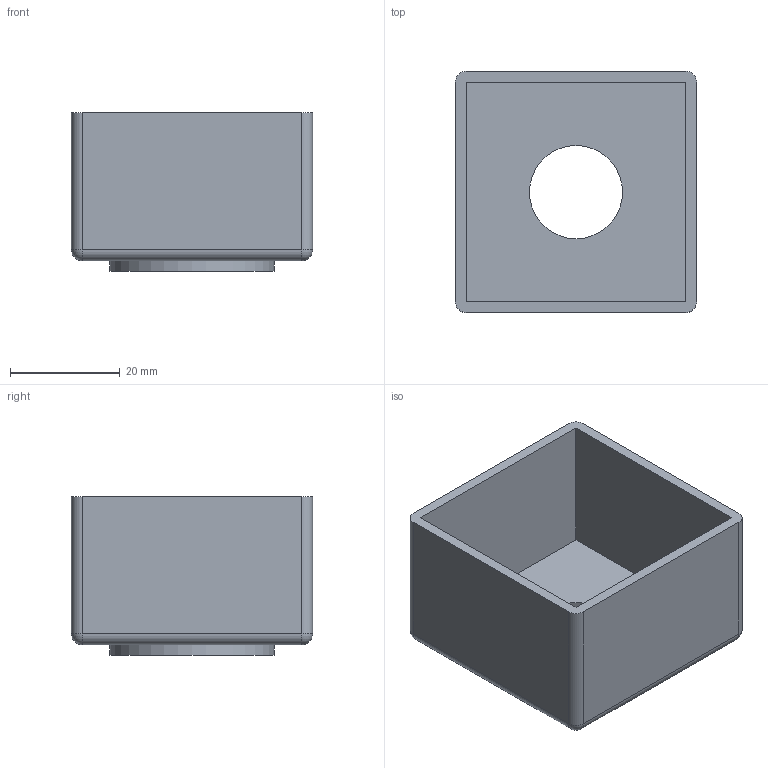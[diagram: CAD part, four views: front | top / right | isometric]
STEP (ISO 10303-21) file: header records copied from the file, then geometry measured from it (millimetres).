
FILE_DESCRIPTION(('STEP AP214'),'1');
FILE_NAME('EC40-H16.stp','2017-07-24T04:48:24',(' '),(' '),'Spatial InterOp 3D',' ',' ');
FILE_SCHEMA(('automotive_design'));
Length unit declared in the file: millimetre
Products named in the file (3): EC40-H16; M16PW
Assembly tree (2 placements, depth 2):
  EC40-H16
    M16PW
    EC40-H16
Bounding box: 44 x 44 x 28.9 mm (x, y, z)
Volume: 12491.4 mm3; surface area: 13267.7 mm2
Topology: 2 solids, 2 shells, 28 faces, 61 edges, 34 vertices
Faces by surface type: plane 13, cylinder 11, sphere 4
Full cylindrical faces by diameter (mm): 17 x2, 30 x1
Entity records: 1008 total; most frequent: DIRECTION 138, CARTESIAN_POINT 119, ORIENTED_EDGE 108, EDGE_CURVE 54, AXIS2_PLACEMENT_3D 53, EDGE_LOOP 36, VERTEX_POINT 34, LINE 32
